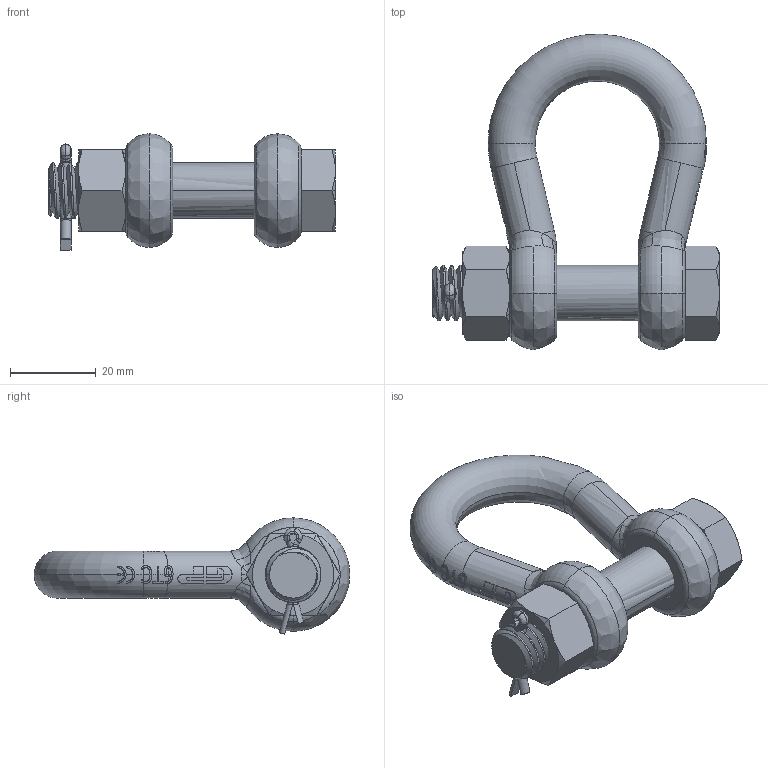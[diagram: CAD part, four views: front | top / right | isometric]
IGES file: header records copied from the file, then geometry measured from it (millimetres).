
Start section: START RECORD GO HERE.
Global section: file name: 1,5.igs; native system: Solidworks 2009                             ; preprocessor: Solidworks 2009            ; author: v.b.; organization: P4; date: 20090807.082627; units: millimetre
Bounding box: 67 x 73.74 x 27.16 mm (x, y, z)
Surface area: 13553 mm2 (no closed solid volume)
Topology: 0 solids, 0 shells, 439 faces, 3261 edges, 3253 vertices
Faces by surface type: revolution 172, bspline 144, plane 123
